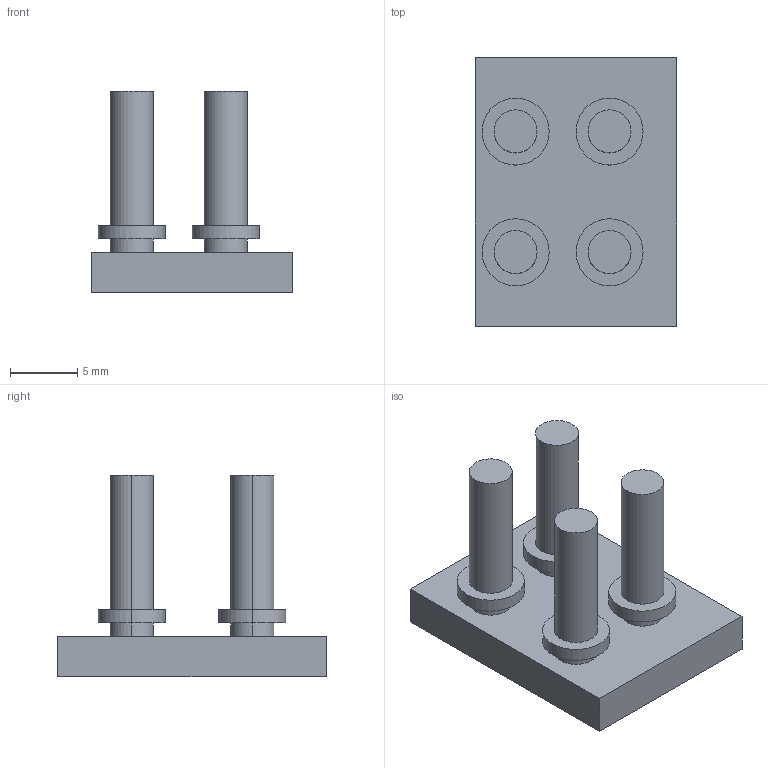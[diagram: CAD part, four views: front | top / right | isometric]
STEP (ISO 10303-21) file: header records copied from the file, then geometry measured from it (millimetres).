
FILE_DESCRIPTION (( 'STEP AP203' ), '1' );
FILE_NAME ('SIL-20G.STEP', '2023-10-16T05:53:31', ( '微软用户' ), ( '微软中国' ), 'SwSTEP 2.0', 'SolidWorks 2019', '' );
FILE_SCHEMA (( 'CONFIG_CONTROL_DESIGN' ));
Length unit declared in the file: millimetre
Products named in the file (1): SIL-20G
Bounding box: 15 x 20 x 15 mm (x, y, z)
Volume: 1332.4 mm3; surface area: 1407.9 mm2
Topology: 1 solids, 1 shells, 42 faces, 84 edges, 56 vertices
Faces by surface type: cylinder 24, plane 18
Entity records: 1193 total; most frequent: DIRECTION 218, CARTESIAN_POINT 183, ORIENTED_EDGE 168, AXIS2_PLACEMENT_3D 91, EDGE_CURVE 84, VERTEX_POINT 56, EDGE_LOOP 54, CIRCLE 48
